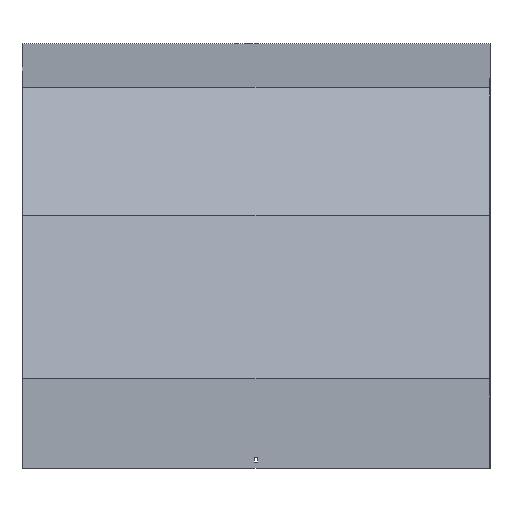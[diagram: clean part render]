
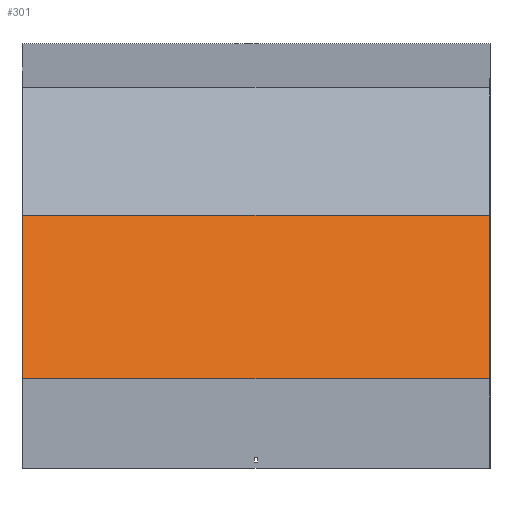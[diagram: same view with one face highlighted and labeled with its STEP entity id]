
A CAD part, top view. The second image highlights one B-rep face of the part: STEP entity #301.
In plain terms, the highlighted planar face has unit normal (0, 0.259, 0.966).
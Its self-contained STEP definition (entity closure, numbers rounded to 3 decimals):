
#67 = VERTEX_POINT ( 'NONE', #785 ) ;
#81 = EDGE_CURVE ( 'NONE', #793, #1046, #1029, .T. ) ;
#94 = EDGE_CURVE ( 'NONE', #1047, #67, #854, .T. ) ;
#135 = CARTESIAN_POINT ( 'NONE',  ( -451.5, -317.096, 737.158 ) ) ;
#160 = EDGE_LOOP ( 'NONE', ( #873, #1088, #345, #886 ) ) ;
#171 = LINE ( 'NONE', #630, #1102 ) ;
#226 = FACE_OUTER_BOUND ( 'NONE', #160, .T. ) ;
#301 = ADVANCED_FACE ( 'NONE', ( #226 ), #400, .F. ) ;
#307 = CARTESIAN_POINT ( 'NONE',  ( 451.5, -627.77, 820.403 ) ) ;
#345 = ORIENTED_EDGE ( 'NONE', *, *, #556, .F. ) ;
#397 = CARTESIAN_POINT ( 'NONE',  ( 451.5, -311.92, 735.771 ) ) ;
#400 = PLANE ( 'NONE',  #1027 ) ;
#418 = CARTESIAN_POINT ( 'NONE',  ( 451.5, -627.77, 820.403 ) ) ;
#426 = DIRECTION ( 'NONE',  ( -1., 0., 0. ) ) ;
#535 = DIRECTION ( 'NONE',  ( 0., -0.966, 0.259 ) ) ;
#556 = EDGE_CURVE ( 'NONE', #1047, #793, #171, .T. ) ;
#630 = CARTESIAN_POINT ( 'NONE',  ( 451.5, -317.096, 737.158 ) ) ;
#655 = VECTOR ( 'NONE', #708, 1000. ) ;
#696 = DIRECTION ( 'NONE',  ( 0., 0.966, -0.259 ) ) ;
#708 = DIRECTION ( 'NONE',  ( 0., -0.966, 0.259 ) ) ;
#720 = DIRECTION ( 'NONE',  ( 0., -0.259, -0.966 ) ) ;
#770 = DIRECTION ( 'NONE',  ( -1., 0., 0. ) ) ;
#785 = CARTESIAN_POINT ( 'NONE',  ( -451.5, -311.92, 735.771 ) ) ;
#792 = CARTESIAN_POINT ( 'NONE',  ( 451.5, -311.92, 735.771 ) ) ;
#793 = VERTEX_POINT ( 'NONE', #307 ) ;
#798 = CARTESIAN_POINT ( 'NONE',  ( 451.5, -317.096, 737.158 ) ) ;
#845 = EDGE_CURVE ( 'NONE', #67, #1046, #1076, .T. ) ;
#854 = LINE ( 'NONE', #792, #874 ) ;
#873 = ORIENTED_EDGE ( 'NONE', *, *, #845, .T. ) ;
#874 = VECTOR ( 'NONE', #770, 1000. ) ;
#886 = ORIENTED_EDGE ( 'NONE', *, *, #94, .T. ) ;
#907 = CARTESIAN_POINT ( 'NONE',  ( -451.5, -627.77, 820.403 ) ) ;
#1027 = AXIS2_PLACEMENT_3D ( 'NONE', #798, #720, #696 ) ;
#1029 = LINE ( 'NONE', #418, #1070 ) ;
#1046 = VERTEX_POINT ( 'NONE', #907 ) ;
#1047 = VERTEX_POINT ( 'NONE', #397 ) ;
#1070 = VECTOR ( 'NONE', #426, 1000. ) ;
#1076 = LINE ( 'NONE', #135, #655 ) ;
#1088 = ORIENTED_EDGE ( 'NONE', *, *, #81, .F. ) ;
#1102 = VECTOR ( 'NONE', #535, 1000. ) ;
